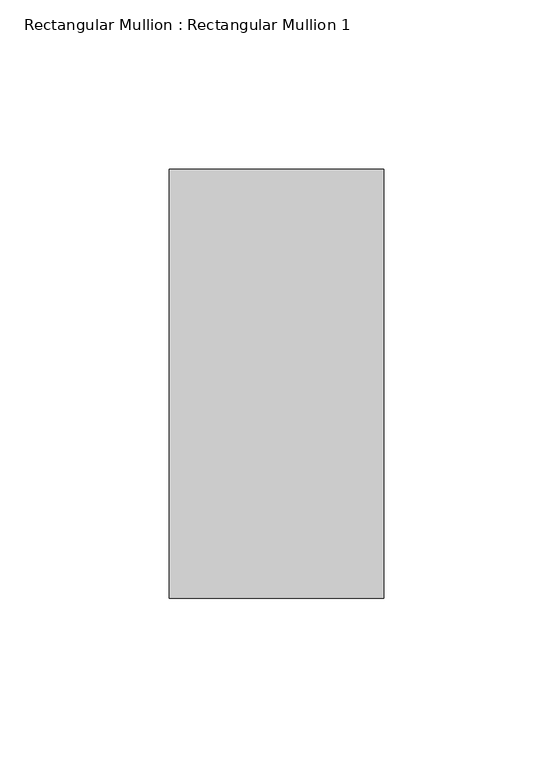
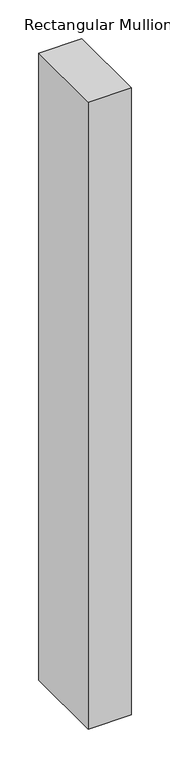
"""IFC4 building model written with IfcOpenShell, lengths in millimetres: member geometry, Rectangular Mullion : Rectangular Mullion 1."""

import ifcopenshell
import ifcopenshell.guid

model = None  # the IFC model being written
_history = None  # IfcOwnerHistory: only IFC2X3 demands one
_inside = {}  # id of a spatial element -> (the spatial element, [elements in it])
_under = {}  # id of a project, library or spatial element -> (it, [spatial elements below it])
_declared = {}  # id of a project -> (the project, [libraries it declares])
_typed = {}  # id of a type object -> (the type object, [elements of that type])
_made_of = {}  # id of a material, layer set ... -> (it, [elements and type objects made of it])


def new_model(schema):
    """Start an empty IFC model of exactly this schema.

    Asked for "IFC4X3", IfcOpenShell would pick the latest addendum, in which some entities
    have other attributes; the version numbers below select the first issue.
    IFC2X3 requires an IfcOwnerHistory on every rooted entity: one is made here for all.
    """
    global model, _history
    if schema == "IFC4X3":
        model = ifcopenshell.file(schema_version=(4, 3, 0, 0))
    else:
        model = ifcopenshell.file(schema=schema)
    _inside.clear()
    _under.clear()
    _declared.clear()
    _typed.clear()
    _made_of.clear()
    _history = None
    if model.schema == "IFC2X3":
        org = make("IfcOrganization", Name="unknown")
        user = make(
            "IfcPersonAndOrganization",
            ThePerson=make("IfcPerson", FamilyName="unknown"),
            TheOrganization=org,
        )
        app = make(
            "IfcApplication",
            ApplicationDeveloper=org,
            Version="unknown",
            ApplicationFullName="unknown",
            ApplicationIdentifier="unknown",
        )
        _history = make(
            "IfcOwnerHistory",
            OwningUser=user,
            OwningApplication=app,
            ChangeAction="ADDED",
            CreationDate=0,
        )
    return model


def make(cls, **values):
    """One entity of the class cls with the attributes given. An attribute that is None is left unset."""
    return model.create_entity(
        cls, **{name: value for name, value in values.items() if value is not None}
    )


def rooted(cls, **values):
    """An entity with a GlobalId (a new one), such as an element, a storey or a relation."""
    return make(cls, GlobalId=ifcopenshell.guid.new(), OwnerHistory=_history, **values)


def si_unit(unit_type, name, prefix=None):
    """IfcSIUnit, for example si_unit("LENGTHUNIT", "METRE", prefix="MILLI")."""
    return make("IfcSIUnit", UnitType=unit_type, Prefix=prefix, Name=name)


def assignment(units):
    """IfcUnitAssignment: the units of a project."""
    return None if units is None else make("IfcUnitAssignment", Units=units)


def point(xyz):
    """IfcCartesianPoint."""
    return None if xyz is None else make("IfcCartesianPoint", Coordinates=xyz)


def direction(xyz):
    """IfcDirection."""
    return None if xyz is None else make("IfcDirection", DirectionRatios=xyz)


def frame(location, z_axis=None, x_axis=None):
    """IfcAxis2Placement3D, a coordinate frame: its origin and axes. An axis left out is left unset."""
    return make(
        "IfcAxis2Placement3D",
        Location=point(location),
        Axis=direction(z_axis),
        RefDirection=direction(x_axis),
    )


def origin():
    """The frame at (0, 0, 0) with its axes left unset."""
    return frame((0.0, 0.0, 0.0))


def place(relative_to, where):
    """IfcLocalPlacement: puts the frame where relative to a parent placement (None: the world)."""
    return make(
        "IfcLocalPlacement", PlacementRelTo=relative_to, RelativePlacement=where
    )


def context(
    kind, dimensions, precision=None, world=None, true_north=None, identifier=None
):
    """IfcGeometricRepresentationContext, for example the 3D "Model" context."""
    return make(
        "IfcGeometricRepresentationContext",
        ContextIdentifier=identifier,
        ContextType=kind,
        CoordinateSpaceDimension=dimensions,
        Precision=precision,
        WorldCoordinateSystem=world,
        TrueNorth=true_north,
    )


def project(units=None, contexts=None):
    """IfcProject with its units and contexts."""
    return rooted(
        "IfcProject",
        Name="project",
        RepresentationContexts=contexts,
        UnitsInContext=assignment(units),
    )


def spatial(cls, under=None, at=None, **own):
    """A site, building, storey or space (cls), placed at a placement, below another one or the project."""
    s = rooted(cls, ObjectPlacement=at, **own)
    if under is not None:
        _under.setdefault(under.id(), (under, []))[1].append(s)
    return s


def polyline(points):
    """IfcPolyline through the points."""
    return make("IfcPolyline", Points=[point(p) for p in points])


def outline(outer, holes=None, kind="AREA"):
    """IfcArbitraryClosedProfileDef: a profile drawn as a closed curve; with holes, ...WithVoids."""
    if holes is None:
        return make("IfcArbitraryClosedProfileDef", ProfileType=kind, OuterCurve=outer)
    return make(
        "IfcArbitraryProfileDefWithVoids",
        ProfileType=kind,
        OuterCurve=outer,
        InnerCurves=holes,
    )


def extrude(swept, where, along, depth):
    """IfcExtrudedAreaSolid: the profile swept, set in the frame where, extruded along a direction by depth."""
    return make(
        "IfcExtrudedAreaSolid",
        SweptArea=swept,
        Position=where,
        ExtrudedDirection=direction(along),
        Depth=depth,
    )


def shape(context_of_items, identifier, shape_type, items):
    """IfcShapeRepresentation: the items that make up one representation, for example the "Body"."""
    return make(
        "IfcShapeRepresentation",
        ContextOfItems=context_of_items,
        RepresentationIdentifier=identifier,
        RepresentationType=shape_type,
        Items=items,
    )


def source(mapping_origin, context_of_items, identifier, shape_type, items):
    """IfcRepresentationMap: a shape defined once, which mapped items show again and again."""
    return make(
        "IfcRepresentationMap",
        MappingOrigin=mapping_origin,
        MappedRepresentation=shape(context_of_items, identifier, shape_type, items),
    )


def transform(
    local_origin,
    x_axis=None,
    y_axis=None,
    z_axis=None,
    scale=None,
    scale2=None,
    scale3=None,
    uniform=True,
):
    """IfcCartesianTransformationOperator3D, or its non-uniform kind. x_axis, y_axis, z_axis: its Axis1, 2, 3."""
    if uniform:
        return make(
            "IfcCartesianTransformationOperator3D",
            Axis1=direction(x_axis),
            Axis2=direction(y_axis),
            LocalOrigin=point(local_origin),
            Scale=scale,
            Axis3=direction(z_axis),
        )
    return make(
        "IfcCartesianTransformationOperator3DnonUniform",
        Axis1=direction(x_axis),
        Axis2=direction(y_axis),
        LocalOrigin=point(local_origin),
        Scale=scale,
        Axis3=direction(z_axis),
        Scale2=scale2,
        Scale3=scale3,
    )


def mapped(mapping_source, mapping_target):
    """IfcMappedItem: shows the shape of a source again, moved by a transform."""
    return make(
        "IfcMappedItem", MappingSource=mapping_source, MappingTarget=mapping_target
    )


def made_of(thing, what):
    """Note that an element or type object is made of a material, layer set ...; save() writes the relation."""
    if what is not None:
        _made_of.setdefault(what.id(), (what, []))[1].append(thing)
    return thing


def element(
    cls,
    number,
    at=None,
    inside=None,
    cuts=None,
    type_object=None,
    material=None,
    context=None,
    identifier="Body",
    shape_type=None,
    held_by="IfcProductDefinitionShape",
    body=None,
    shapes=None,
    **own,
):
    """One element of the class cls, such as IfcWall. Its Tag is "e" and its number.

    at: its placement. inside: the storey or other place that contains it. cuts: it is an
    opening in that element (IfcRelVoidsElement). A single representation is given by context,
    identifier, shape_type and body (its items); several are given by shapes. held_by: the class
    of the entity that holds the representations. save() writes the other relations.
    """
    e = rooted(cls, Tag="e%d" % number, ObjectPlacement=at, **own)
    if body is not None:
        shapes = [shape(context, identifier, shape_type, body)]
    if shapes is not None:
        e.Representation = make(held_by, Representations=shapes)
    if inside is not None:
        _inside.setdefault(inside.id(), (inside, []))[1].append(e)
    if cuts is not None:
        rooted(
            "IfcRelVoidsElement", RelatingBuildingElement=cuts, RelatedOpeningElement=e
        )
    if type_object is not None:
        _typed.setdefault(type_object.id(), (type_object, []))[1].append(e)
    return made_of(e, material)


def aggregate(whole, parts):
    """IfcRelAggregates: a whole, such as a stair, and the parts it consists of."""
    return rooted("IfcRelAggregates", RelatingObject=whole, RelatedObjects=parts)


def save(model, path):
    """Write the relations noted so far, then the file.

    IfcRelAggregates (storeys below a building ...), IfcRelContainedInSpatialStructure (elements
    in a storey), IfcRelDefinesByType, IfcRelAssociatesMaterial and IfcRelDeclares: one each for
    every whole, place, type object, material and project.
    """
    for whole, parts in _under.values():
        aggregate(whole, parts)
    for where, things in _inside.values():
        rooted(
            "IfcRelContainedInSpatialStructure",
            RelatedElements=things,
            RelatingStructure=where,
        )
    for kind, things in _typed.values():
        rooted("IfcRelDefinesByType", RelatedObjects=things, RelatingType=kind)
    for what, things in _made_of.values():
        rooted("IfcRelAssociatesMaterial", RelatedObjects=things, RelatingMaterial=what)
    for by, libraries in _declared.values():
        rooted("IfcRelDeclares", RelatingContext=by, RelatedDefinitions=libraries)
    model.write(path)


def rectangular_mullion_rectangular_mullion_1_650d2c5f(model_context):
    return source(origin(), model_context, "Body", "SweptSolid", [
        extrude(outline(polyline([(31.75, 63.5), (31.75, -63.5), (-31.75, -63.5), (-31.75, 63.5), (31.75, 63.5)])), frame((0.0, 0.0, -984.2499998), z_axis=(0.0, 0.0, 1.0), x_axis=(1.0, 0.0, 0.0)), (0.0, 0.0, 1.0), 984.2499998),
    ])


if __name__ == "__main__":
    model = new_model("IFC4")
    model_context = context("Model", 3, world=origin())
    ifc_project = project(units=[si_unit("LENGTHUNIT", "METRE", prefix="MILLI")], contexts=[model_context])
    site = spatial("IfcSite", under=ifc_project)
    building = spatial("IfcBuilding", under=site)
    placement = place(None, origin())
    rectangular_mullion_rectangular_mullion_1_shape = rectangular_mullion_rectangular_mullion_1_650d2c5f(model_context)
    element("IfcMember", 1, ObjectType="Rectangular Mullion : Rectangular Mullion 1", at=placement, inside=building, context=model_context, shape_type="MappedRepresentation", body=[
        mapped(rectangular_mullion_rectangular_mullion_1_shape, transform((0.0, 0.0, 0.0), x_axis=(1.0, 0.0, 0.0), y_axis=(0.0, 1.0, 0.0), z_axis=(0.0, 0.0, 1.0))),
    ])
    save(model, "model.ifc")
